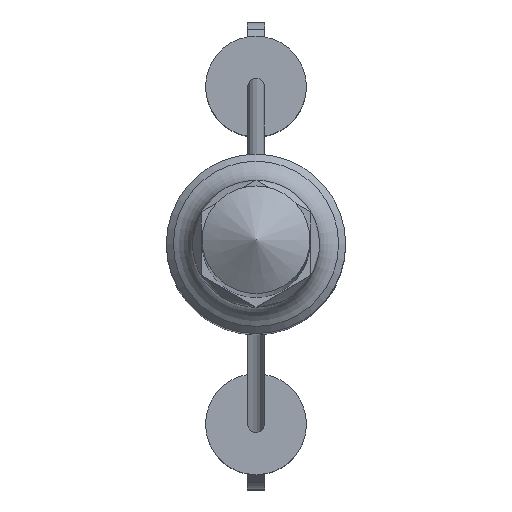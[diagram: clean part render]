
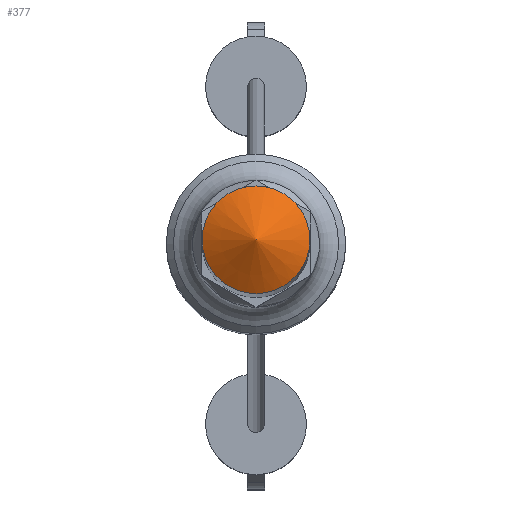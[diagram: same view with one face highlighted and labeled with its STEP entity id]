
A CAD part, top view. The second image highlights one B-rep face of the part: STEP entity #377.
In plain terms, the highlighted conical face has half-angle 60 degrees and reference radius 2.4 mm.
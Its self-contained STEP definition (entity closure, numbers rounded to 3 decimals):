
#324 = DIRECTION ( 'NONE',  ( -1., 0., 0. ) ) ;
#336 = DIRECTION ( 'NONE',  ( 0., 0., -1. ) ) ;
#377 = ADVANCED_FACE ( 'NONE', ( #2127 ), #1525, .T. ) ;
#1013 = EDGE_CURVE ( 'NONE', #2328, #2328, #1396, .T. ) ;
#1076 = DIRECTION ( 'NONE',  ( 1., 0., 0. ) ) ;
#1089 = DIRECTION ( 'NONE',  ( 0., 0., 1. ) ) ;
#1264 = CARTESIAN_POINT ( 'NONE',  ( 2.4, 0., 98.614 ) ) ;
#1396 = CIRCLE ( 'NONE', #1701, 2.4 ) ;
#1409 = EDGE_LOOP ( 'NONE', ( #1866 ) ) ;
#1525 = CONICAL_SURFACE ( 'NONE', #1646, 2.4, 1.047 ) ;
#1646 = AXIS2_PLACEMENT_3D ( 'NONE', #1965, #336, #324 ) ;
#1668 = CARTESIAN_POINT ( 'NONE',  ( 0., 0., 98.614 ) ) ;
#1701 = AXIS2_PLACEMENT_3D ( 'NONE', #1668, #1089, #1076 ) ;
#1866 = ORIENTED_EDGE ( 'NONE', *, *, #1013, .T. ) ;
#1965 = CARTESIAN_POINT ( 'NONE',  ( 0., 0., 98.614 ) ) ;
#2127 = FACE_OUTER_BOUND ( 'NONE', #1409, .T. ) ;
#2328 = VERTEX_POINT ( 'NONE', #1264 ) ;
